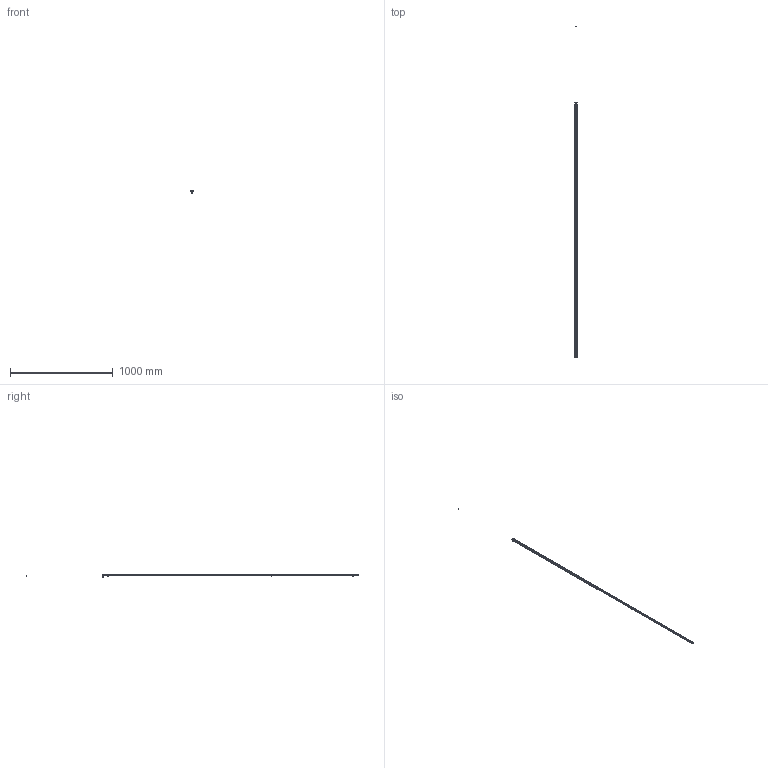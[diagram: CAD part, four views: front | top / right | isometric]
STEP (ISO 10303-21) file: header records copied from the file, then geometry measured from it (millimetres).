
FILE_DESCRIPTION (( 'STEP AP214' ), '1' );
FILE_NAME ('ILGA-B-K1a-2480mm.STEP', '2026-04-24T22:54:07', ( '' ), ( '' ), 'SwSTEP 2.0', 'SolidWorks 2025', '' );
FILE_SCHEMA (( 'AUTOMOTIVE_DESIGN' ));
Length unit declared in the file: millimetre
Products named in the file (1): ILGA-B-K1a-2480mm
Bounding box: 22.4 x 3225.5 x 34.2 mm (x, y, z)
Volume: 185467.4 mm3; surface area: 335699.2 mm2
Topology: 13 solids, 13 shells, 728 faces, 1866 edges, 1142 vertices
Faces by surface type: plane 314, cylinder 270, cone 60, torus 44, bspline 24, sphere 16
Entity records: 30387 total; most frequent: CARTESIAN_POINT 4637, DIRECTION 3846, ORIENTED_EDGE 3644, EDGE_CURVE 1822, AXIS2_PLACEMENT_3D 1439, VERTEX_POINT 1142, VECTOR 968, LINE 968
